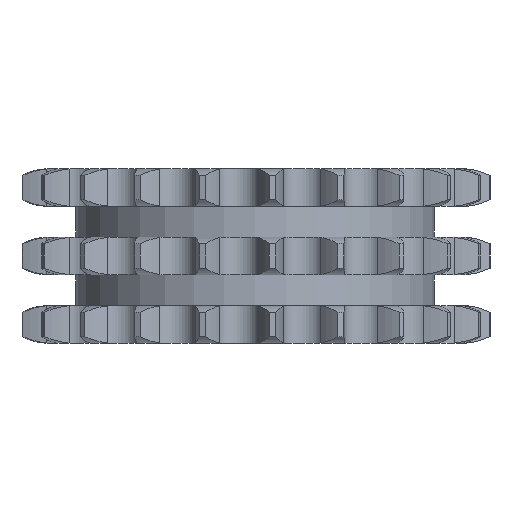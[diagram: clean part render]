
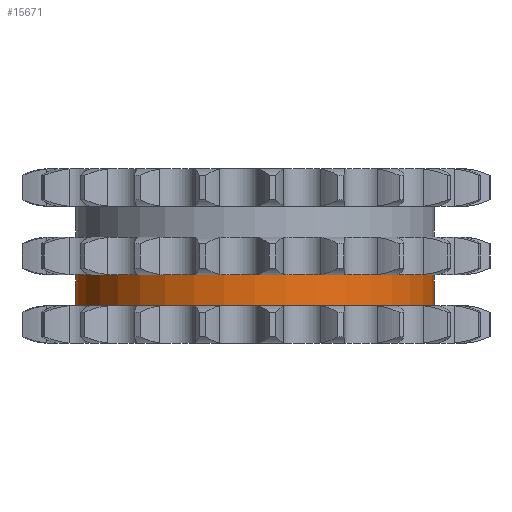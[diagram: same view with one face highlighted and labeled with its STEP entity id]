
A CAD part, left-side view. The second image highlights one B-rep face of the part: STEP entity #15671.
In plain terms, the highlighted cylindrical face has radius 43.257 mm (diameter 86.513 mm), a partial arc.
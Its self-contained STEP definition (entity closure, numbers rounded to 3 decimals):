
#3045=DIRECTION('',(0.,0.,-1.));
#3046=VECTOR('',#3045,7.4);
#3047=CARTESIAN_POINT('',(0.,43.257,-4.55));
#3048=LINE('',#3047,#3046);
#3052=CARTESIAN_POINT('',(0.,0.,-4.55));
#3053=DIRECTION('',(0.,0.,1.));
#3054=DIRECTION('',(0.,1.,0.));
#3055=AXIS2_PLACEMENT_3D('',#3052,#3053,#3054);
#3060=DIRECTION('',(0.,0.,-1.));
#3061=VECTOR('',#3060,7.4);
#3062=CARTESIAN_POINT('',(0.,-43.257,-4.55));
#3063=LINE('',#3062,#3061);
#3067=CARTESIAN_POINT('',(0.,0.,-11.95));
#3068=DIRECTION('',(0.,0.,1.));
#3069=DIRECTION('',(0.,1.,0.));
#3070=AXIS2_PLACEMENT_3D('',#3067,#3068,#3069);
#11888=CARTESIAN_POINT('',(0.,43.257,-4.55));
#11889=CARTESIAN_POINT('',(0.,43.257,-11.95));
#11890=VERTEX_POINT('',#11888);
#11891=VERTEX_POINT('',#11889);
#11892=CARTESIAN_POINT('',(0.,-43.257,-4.55));
#11893=CARTESIAN_POINT('',(0.,-43.257,-11.95));
#11894=VERTEX_POINT('',#11892);
#11895=VERTEX_POINT('',#11893);
#15659=CARTESIAN_POINT('',(0.,0.,13.145));
#15660=DIRECTION('',(0.,0.,-1.));
#15661=DIRECTION('',(0.,-1.,0.));
#15662=AXIS2_PLACEMENT_3D('',#15659,#15660,#15661);
#15663=CYLINDRICAL_SURFACE('',#15662,43.257);
#15664=ORIENTED_EDGE('',*,*,#15649,.F.);
#15665=ORIENTED_EDGE('',*,*,#15639,.T.);
#15666=ORIENTED_EDGE('',*,*,#15653,.T.);
#15668=ORIENTED_EDGE('',*,*,#15667,.F.);
#15669=EDGE_LOOP('',(#15664,#15665,#15666,#15668));
#15670=FACE_OUTER_BOUND('',#15669,.F.);
#15671=ADVANCED_FACE('',(#15670),#15663,.T.);
#3056=CIRCLE('',#3055,43.257);
#3071=CIRCLE('',#3070,43.257);
#15639=EDGE_CURVE('',#11890,#11894,#3056,.T.);
#15649=EDGE_CURVE('',#11890,#11891,#3048,.T.);
#15653=EDGE_CURVE('',#11894,#11895,#3063,.T.);
#15667=EDGE_CURVE('',#11891,#11895,#3071,.T.);
